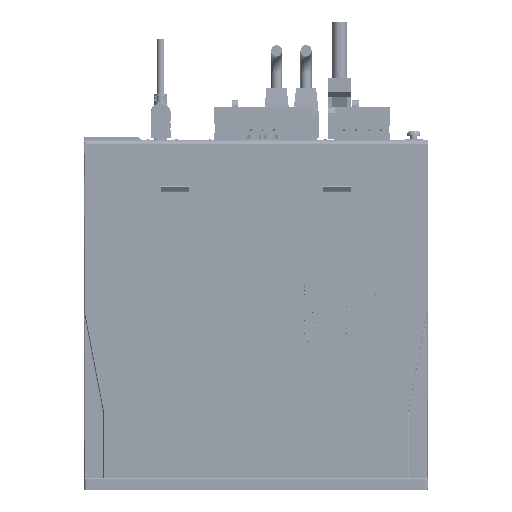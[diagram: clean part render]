
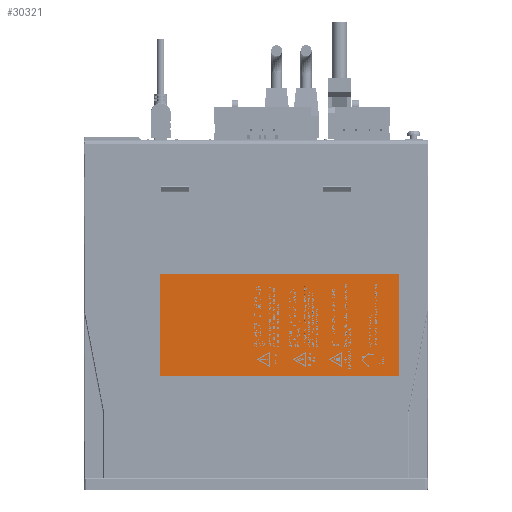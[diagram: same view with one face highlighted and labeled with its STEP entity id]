
A CAD part, left-side view. The second image highlights one B-rep face of the part: STEP entity #30321.
In plain terms, the highlighted planar face has unit normal (-1, 0, 0).
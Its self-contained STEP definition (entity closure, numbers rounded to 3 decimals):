
#30321=ADVANCED_FACE('',(#55350),#415064,.T.);
#55350=FACE_OUTER_BOUND('',#82144,.T.);
#82144=EDGE_LOOP('',(#211253,#211254,#211255,#211256,#211257,#211258));
#211253=ORIENTED_EDGE('',*,*,#276820,.F.);
#211254=ORIENTED_EDGE('',*,*,#278219,.T.);
#211255=ORIENTED_EDGE('',*,*,#278220,.F.);
#211256=ORIENTED_EDGE('',*,*,#278221,.F.);
#211257=ORIENTED_EDGE('',*,*,#276815,.F.);
#211258=ORIENTED_EDGE('',*,*,#276814,.T.);
#276814=EDGE_CURVE('',#390992,#390993,#283699,.T.);
#276815=EDGE_CURVE('',#390992,#390994,#346472,.T.);
#276820=EDGE_CURVE('',#390997,#390993,#346477,.T.);
#278219=EDGE_CURVE('',#390997,#390996,#283848,.T.);
#278220=EDGE_CURVE('',#390995,#390996,#347727,.T.);
#278221=EDGE_CURVE('',#390994,#390995,#347728,.T.);
#283699=TRIMMED_CURVE($,#287625,(#851019),(#851020),.T.,.CARTESIAN.);
#283848=TRIMMED_CURVE($,#287774,(#854311),(#854312),.T.,.CARTESIAN.);
#287625=CIRCLE('',#440986,0.2);
#287774=CIRCLE('',#441135,0.2);
#346472=B_SPLINE_CURVE_WITH_KNOTS('',1,(#851021,#851022),.UNSPECIFIED.,
 .F.,.F.,(2,2),(0.,128.8),.UNSPECIFIED.);
#346477=B_SPLINE_CURVE_WITH_KNOTS('',1,(#851031,#851032),.UNSPECIFIED.,
 .F.,.F.,(2,2),(0.,54.6),.UNSPECIFIED.);
#347727=B_SPLINE_CURVE_WITH_KNOTS('',1,(#854313,#854314),.UNSPECIFIED.,
 .F.,.F.,(2,2),(-128.8,0.),.UNSPECIFIED.);
#347728=B_SPLINE_CURVE_WITH_KNOTS('',1,(#854315,#854316),.UNSPECIFIED.,
 .F.,.F.,(2,2),(-55.,0.),.UNSPECIFIED.);
#390992=VERTEX_POINT('',#841284);
#390993=VERTEX_POINT('',#841285);
#390994=VERTEX_POINT('',#841286);
#390995=VERTEX_POINT('',#841287);
#390996=VERTEX_POINT('',#841288);
#390997=VERTEX_POINT('',#841289);
#415064=PLANE('',#440253);
#440253=AXIS2_PLACEMENT_3D('',#836656,#469155,$);
#440986=AXIS2_PLACEMENT_3D($,#851018,#470309,#470310);
#441135=AXIS2_PLACEMENT_3D($,#854310,#470607,#470608);
#469155=DIRECTION('',(-1.,0.,0.));
#470309=DIRECTION('',(-1.,0.,0.));
#470310=DIRECTION('',(0.,0.,1.));
#470607=DIRECTION('',(-1.,0.,0.));
#470608=DIRECTION('',(0.,1.,0.));
#836656=CARTESIAN_POINT('',(35.705,-261.249,-129.841));
#841284=CARTESIAN_POINT('',(35.705,-274.409,-69.281));
#841285=CARTESIAN_POINT('',(35.705,-274.209,-69.481));
#841286=CARTESIAN_POINT('',(35.705,-403.209,-69.281));
#841287=CARTESIAN_POINT('',(35.705,-403.209,-124.281));
#841288=CARTESIAN_POINT('',(35.705,-274.409,-124.281));
#841289=CARTESIAN_POINT('',(35.705,-274.209,-124.081));
#851018=CARTESIAN_POINT('',(35.705,-274.409,-69.481));
#851019=CARTESIAN_POINT('',(35.705,-274.409,-69.281));
#851020=CARTESIAN_POINT('',(35.705,-274.209,-69.481));
#851021=CARTESIAN_POINT('',(35.705,-274.409,-69.281));
#851022=CARTESIAN_POINT('',(35.705,-403.209,-69.281));
#851031=CARTESIAN_POINT('',(35.705,-274.209,-124.081));
#851032=CARTESIAN_POINT('',(35.705,-274.209,-69.481));
#854310=CARTESIAN_POINT('',(35.705,-274.409,-124.081));
#854311=CARTESIAN_POINT('',(35.705,-274.209,-124.081));
#854312=CARTESIAN_POINT('',(35.705,-274.409,-124.281));
#854313=CARTESIAN_POINT('',(35.705,-403.209,-124.281));
#854314=CARTESIAN_POINT('',(35.705,-274.409,-124.281));
#854315=CARTESIAN_POINT('',(35.705,-403.209,-69.281));
#854316=CARTESIAN_POINT('',(35.705,-403.209,-124.281));
